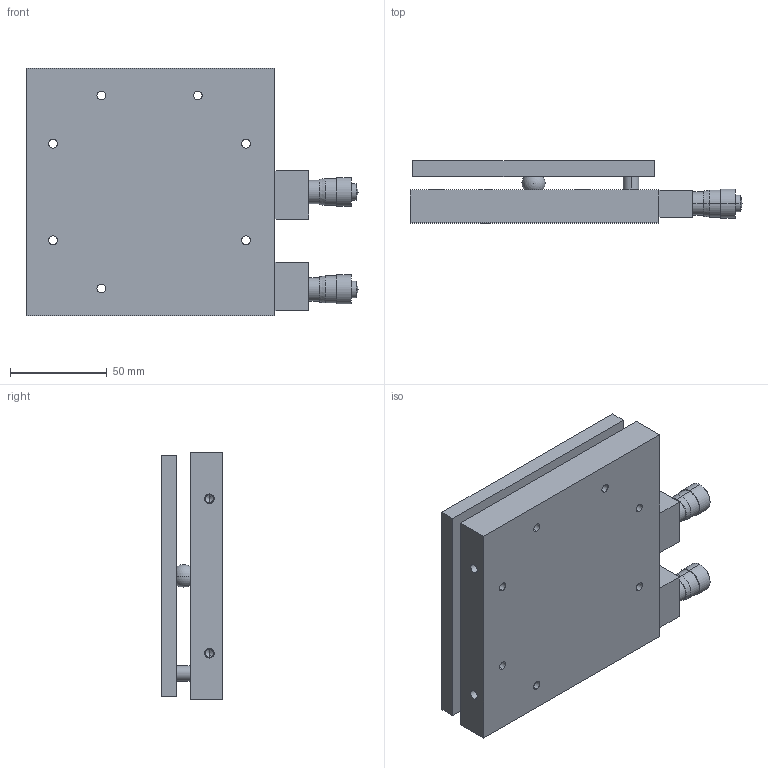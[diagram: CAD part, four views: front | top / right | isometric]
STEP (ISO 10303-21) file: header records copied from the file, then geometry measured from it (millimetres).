
FILE_DESCRIPTION (( 'STEP AP203' ), '1' );
FILE_NAME ('TD-122C.STEP', '2024-07-17T11:45:10', ( '' ), ( '' ), 'SwSTEP 2.0', 'SolidWorks 2021', '' );
FILE_SCHEMA (( 'CONFIG_CONTROL_DESIGN' ));
Length unit declared in the file: millimetre
Products named in the file (3): TD-122C-1; TD-122C; TD-122C-2
Assembly tree (2 placements, depth 2):
  TD-122C
    TD-122C-1
    TD-122C-2
Bounding box: 172 x 32 x 128 mm (x, y, z)
Volume: 416785.5 mm3; surface area: 87822.9 mm2
Topology: 2 solids, 4 shells, 157 faces, 387 edges, 254 vertices
Faces by surface type: cylinder 102, plane 41, cone 8, sphere 6
Entity records: 5101 total; most frequent: DIRECTION 922, CARTESIAN_POINT 791, ORIENTED_EDGE 756, AXIS2_PLACEMENT_3D 382, EDGE_CURVE 378, VERTEX_POINT 251, EDGE_LOOP 235, CIRCLE 220
